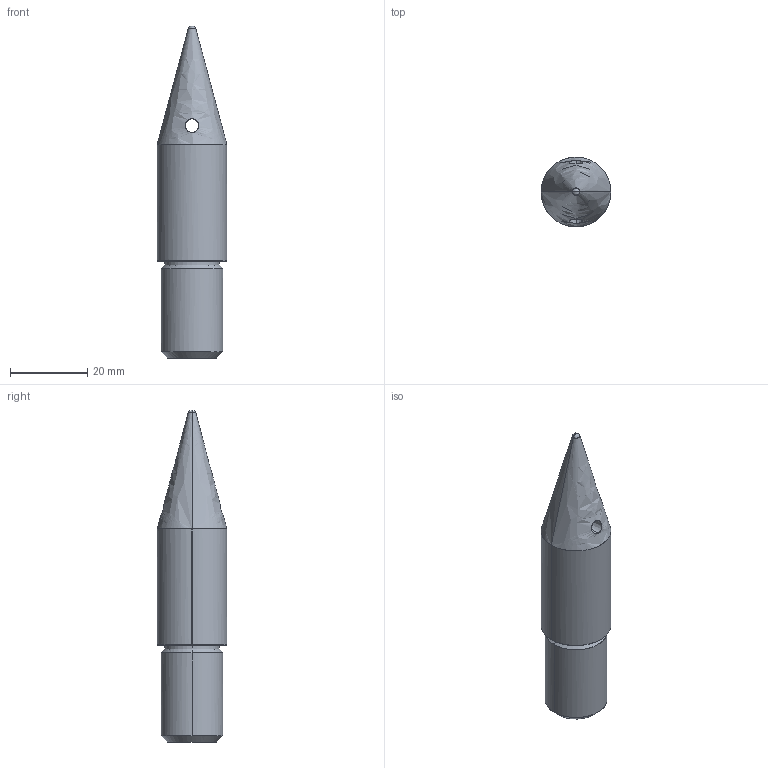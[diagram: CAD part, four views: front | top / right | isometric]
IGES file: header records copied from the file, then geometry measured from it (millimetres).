
Global section: file name: E:\UnigraphicsGraphicData\MISUMI_PRESS-PARTS\IGES\3d_sltlh20-p18.00-b30_02955_r00.igs; native system: NX V5.0; preprocessor: UGS NX IGES V5.0; author: MISUMI; date: 20110105.162834; units: millimetre
Bounding box: 18 x 17.99 x 85.72 mm (x, y, z)
Surface area: 4334.5 mm2 (no closed solid volume)
Topology: 0 solids, 0 shells, 20 faces, 120 edges, 118 vertices
Faces by surface type: bspline 20
